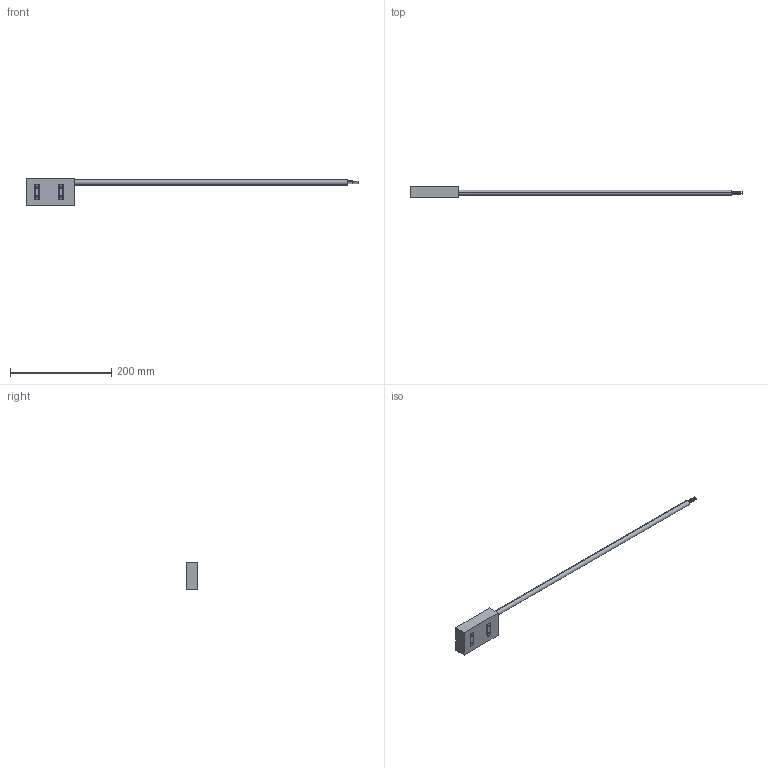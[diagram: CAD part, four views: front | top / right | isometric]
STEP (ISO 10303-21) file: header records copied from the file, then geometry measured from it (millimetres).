
FILE_DESCRIPTION (( 'STEP AP214' ), '1' );
FILE_NAME ('CoilUnitTD55-3Ncolor.STEP', '2025-03-07T09:25:11', ( '' ), ( '' ), 'SwSTEP 2.0', 'SolidWorks 2023', '' );
FILE_SCHEMA (( 'AUTOMOTIVE_DESIGN' ));
Length unit declared in the file: millimetre
Products named in the file (1): CoilUnitTD55-3Ncolor
Bounding box: 656.07 x 23.6 x 54.97 mm (x, y, z)
Volume: 169872.1 mm3; surface area: 36189.8 mm2
Topology: 1 solids, 3 shells, 118 faces, 256 edges, 172 vertices
Faces by surface type: cylinder 66, plane 50, cone 2
Entity records: 4649 total; most frequent: DIRECTION 618, CARTESIAN_POINT 607, ORIENTED_EDGE 512, EDGE_CURVE 256, AXIS2_PLACEMENT_3D 247, VERTEX_POINT 172, EDGE_LOOP 146, CIRCLE 128
